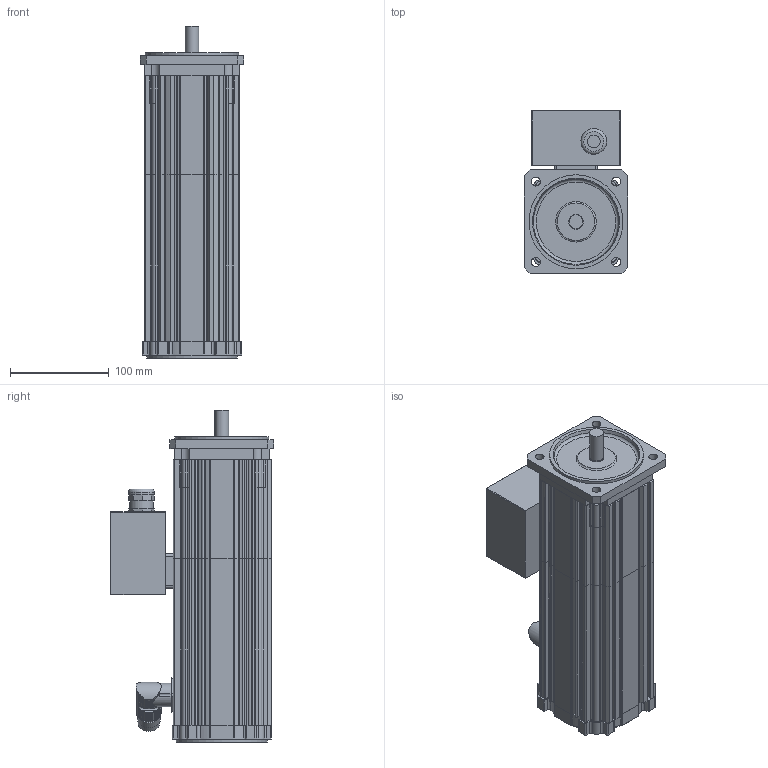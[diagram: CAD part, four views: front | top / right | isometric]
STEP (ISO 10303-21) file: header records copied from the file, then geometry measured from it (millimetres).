
FILE_DESCRIPTION(/* description */ (''),/* implementation_level */ '2;1');
FILE_NAME(/* name */ 'KSA446_MC_Ix',/* time_stamp */ '2009-02-26T14:04:37+01:00',/* author */ (''),/* organization */ (''),/* preprocessor_version */ 'ST-DEVELOPER v8',/* originating_system */ 'UNIGRAPHICS SOLUTIONS - UNIGRAPHICS 18.0',/* authorisation */ '');
FILE_SCHEMA (('AUTOMOTIVE_DESIGN { 1 2 10303 214 0 1 1 1 }'));
Length unit declared in the file: millimetre
Products named in the file (7): 0280391350_0; Lagersch4AS_0; Winkelflanschdose_0; Lagersch4BS_0; 089105X_0; Klemmenkasten_0; KSA444_MC_Ix_0
Assembly tree (6 placements, depth 3):
  KSA444_MC_Ix_0
    089105X_0
    Lagersch4BS_0
    Klemmenkasten_0
      0280391350_0
    Winkelflanschdose_0
    Lagersch4AS_0
Bounding box: 105 x 165.35 x 336 mm (x, y, z)
Volume: 1530947.7 mm3; surface area: 413987.2 mm2
Topology: 7 solids, 7 shells, 748 faces, 2115 edges, 1399 vertices
Faces by surface type: cylinder 424, plane 290, torus 12, cone 10, bspline 8, sphere 4
Full cylindrical faces by diameter (mm): 9 x4, 13 x1, 14 x1, 15 x1, 16 x1, 18 x1, 20 x2, 21 x1, 21.5 x1, 23 x2, 24 x1, 26 x1, 89.6 x2, 91 x1, 95 x1
Entity records: 24949 total; most frequent: CARTESIAN_POINT 5174, DIRECTION 4142, ORIENTED_EDGE 4138, EDGE_CURVE 2069, AXIS2_PLACEMENT_3D 1522, VERTEX_POINT 1388, LINE 1098, VECTOR 1098
